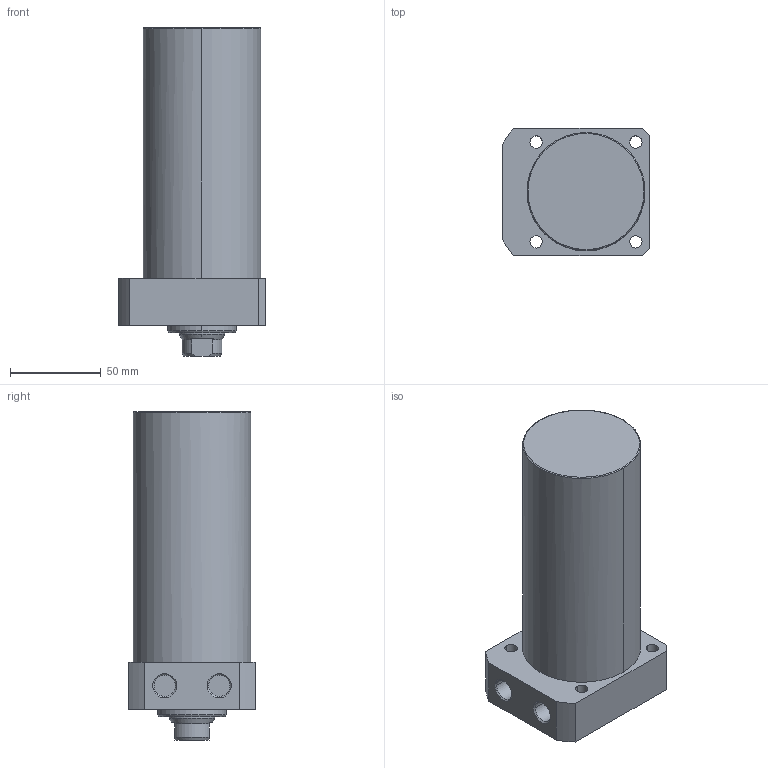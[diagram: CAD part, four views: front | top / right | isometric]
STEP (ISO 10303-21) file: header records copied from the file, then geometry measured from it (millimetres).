
FILE_DESCRIPTION((' '),'2;1');
FILE_NAME( 'TLLR-065CA-105.STEP.stp', '2025-10-24T16:34:54', (' '), ('--- Datakit www.datakit.com---'), ' Datakit CrossCadWare V2024.1 Dec 21 2023', 'Mastercam 2025', ' ');
FILE_SCHEMA(('AUTOMOTIVE_DESIGN { 1 0 10303 214 1 1 1 1 }'));
Length unit declared in the file: millimetre
Products named in the file (1): TLLR-065CA-105
Bounding box: 81 x 70 x 181 mm (x, y, z)
Volume: 601899.3 mm3; surface area: 52609.9 mm2
Topology: 1 solids, 1 shells, 63 faces, 179 edges, 124 vertices
Faces by surface type: cylinder 28, plane 19, cone 14, torus 2
Entity records: 2174 total; most frequent: DIRECTION 402, CARTESIAN_POINT 397, ORIENTED_EDGE 354, EDGE_CURVE 177, AXIS2_PLACEMENT_3D 169, VERTEX_POINT 124, CIRCLE 105, EDGE_LOOP 79
